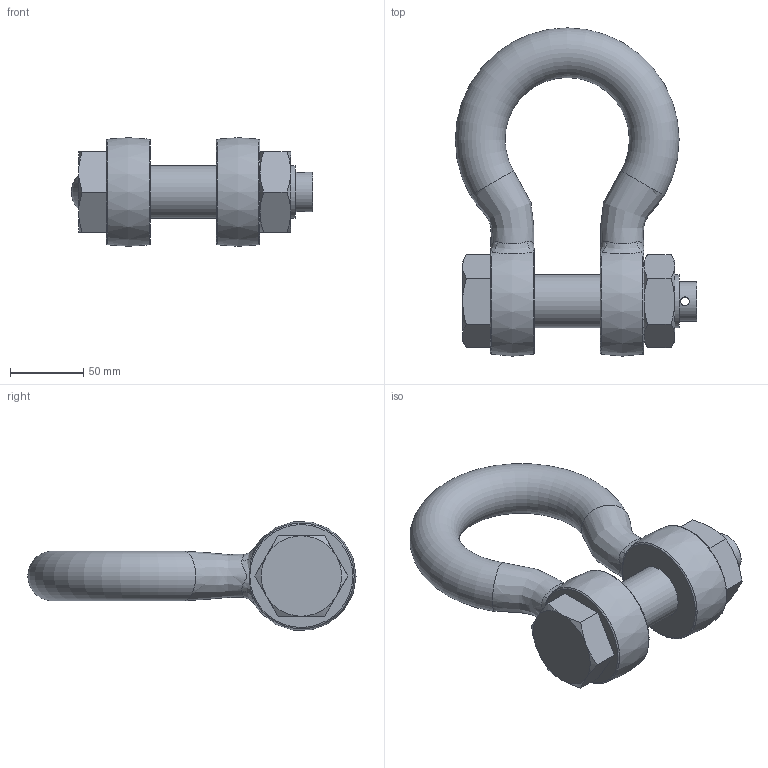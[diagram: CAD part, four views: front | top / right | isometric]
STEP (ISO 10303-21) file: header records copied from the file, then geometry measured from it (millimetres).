
FILE_DESCRIPTION(/* description */ (''),/* implementation_level */ '2;1');
FILE_NAME(/* name */ 'C:\Users\D\Documents\Inventor\HP\吊具\シャックル\BB_2\bb_30.stp',/* time_stamp */ '2024-11-20T10:47:36+09:00',/* author */ ('D'),/* organization */ (''),/* preprocessor_version */ 'ST-DEVELOPER v18',/* originating_system */ 'Autodesk Inventor 2020',/* authorisation */ '');
FILE_SCHEMA (('AUTOMOTIVE_DESIGN { 1 0 10303 214 3 1 1 }','TECHNICAL_DATA_PACKAGING'));
Length unit declared in the file: millimetre
Products named in the file (3): bb_30; ba_6; sb_pin_10
Assembly tree (2 placements, depth 2):
  bb_30
    ba_6
    sb_pin_10
Bounding box: 165 x 224.5 x 74.23 mm (x, y, z)
Volume: 715189.4 mm3; surface area: 100541 mm2
Topology: 4 solids, 4 shells, 67 faces, 171 edges, 109 vertices
Faces by surface type: plane 26, cone 18, bspline 12, cylinder 6, torus 5
Full cylindrical faces by diameter (mm): 6 x1, 27 x1, 36 x2, 37 x2
Entity records: 3429 total; most frequent: CARTESIAN_POINT 1866, ORIENTED_EDGE 330, DIRECTION 287, EDGE_CURVE 165, AXIS2_PLACEMENT_3D 131, VERTEX_POINT 109, EDGE_LOOP 76, CIRCLE 71
